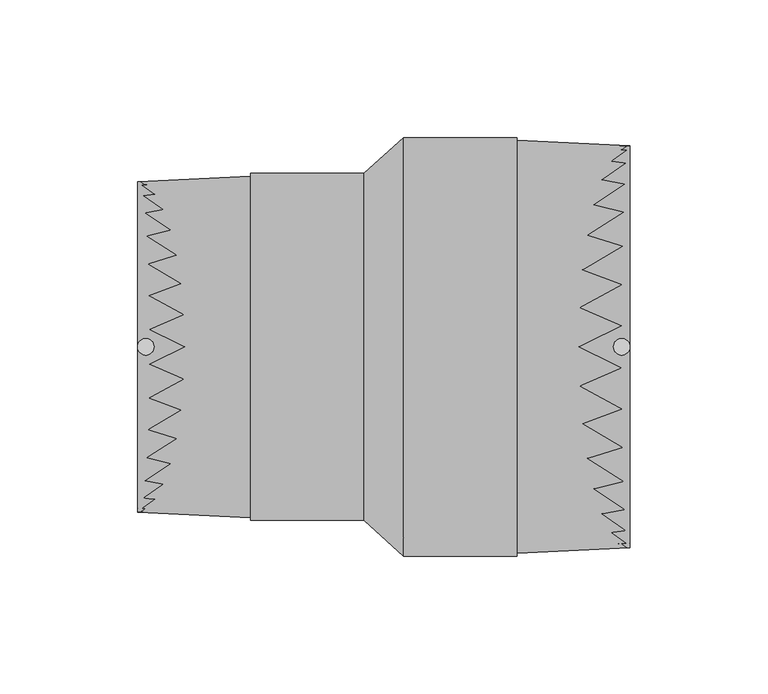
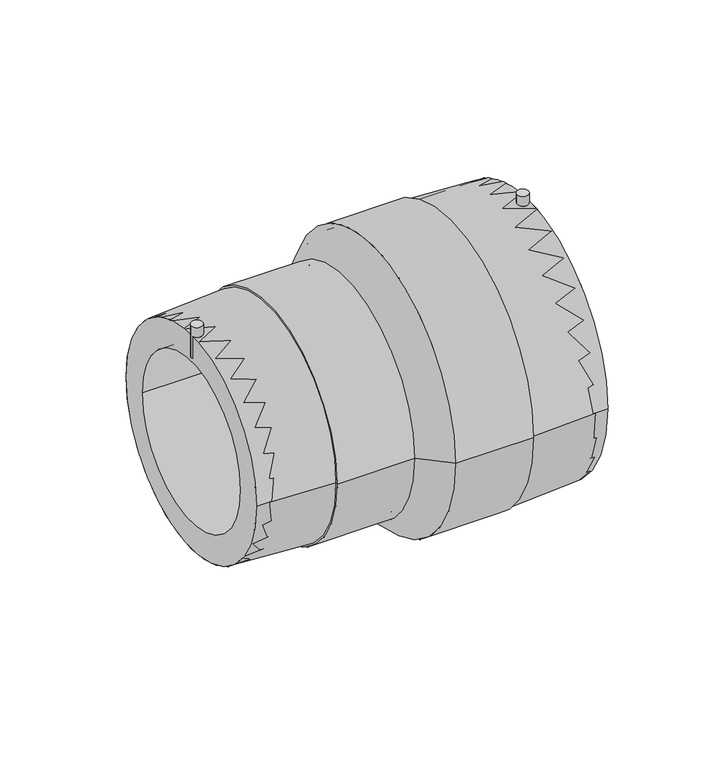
"""IFC4 building model written with IfcOpenShell, lengths in millimetres: pipe fitting geometry, EGB_VASEN_ PPR_Manguito reductor electrosoldable WXRD110 : Manguito reductor electrosoldable WXRD110."""

from ifc_helpers import new_model, si_unit, point, frame, frame_2d, origin, origin_2d, place, context, project, spatial, polyline, circle_curve, trimmed, segment, composite_curve, outline, extrude, source, transform, mapped, element, save
from ifc_brep_helpers import plane_surface, cylinder_surface, revolved_surface, advanced_brep


def pipe_fitting_c5c13ebb(model_context):
    return source(origin(), model_context, "Body", "SolidModel", [
        extrude(outline(composite_curve([segment(trimmed(circle_curve(frame_2d((86.5, 0.0)), 3.0), [point((83.5, 0.0))], [point((89.5, 0.0))], False, "CARTESIAN"), True, "CONTINUOUS"), segment(trimmed(circle_curve(frame_2d((86.5, 0.0)), 3.0), [point((89.5, 0.0))], [point((83.5, 0.0))], False, "CARTESIAN"), True, "CONTINUOUS")], self_intersect=False)), frame((0.0, 0.0, 57.0), z_axis=(0.0, 0.0, 1.0), x_axis=(1.0, 0.0, 0.0)), (0.0, 0.0, 1.0), 21.0),
        extrude(outline(composite_curve([segment(trimmed(circle_curve(frame_2d((-86.5, 0.0)), 3.0), [point((-89.5, 0.0))], [point((-83.5, 0.0))], False, "CARTESIAN"), True, "CONTINUOUS"), segment(trimmed(circle_curve(frame_2d((-86.5, 0.0)), 3.0), [point((-83.5, 0.0))], [point((-89.5, 0.0))], False, "CARTESIAN"), True, "CONTINUOUS")], self_intersect=False)), frame((0.0, 0.0, 47.0), z_axis=(0.0, 0.0, 1.0), x_axis=(1.0, 0.0, 0.0)), (0.0, 0.0, 1.0), 18.0),
        extrude(outline(composite_curve([segment(trimmed(circle_curve(origin_2d(), 73.0), [point((-73.0, 0.0))], [point((73.0, 0.0))], False, "CARTESIAN"), True, "CONTINUOUS"), segment(trimmed(circle_curve(origin_2d(), 73.0), [point((73.0, 0.0))], [point((-73.0, 0.0))], False, "CARTESIAN"), True, "CONTINUOUS")], self_intersect=False), holes=[composite_curve([segment(trimmed(circle_curve(origin_2d(), 55.0), [point((-55.0, 0.0))], [point((55.0, 0.0))], True, "CARTESIAN"), True, "CONTINUOUS"), segment(trimmed(circle_curve(origin_2d(), 55.0), [point((55.0, 0.0))], [point((-55.0, 0.0))], True, "CARTESIAN"), True, "CONTINUOUS")], self_intersect=False)]), frame((7.16, 0.0, 0.0), z_axis=(1.0, 0.0, 0.0), x_axis=(0.0, 1.0, 0.0)), (0.0, 0.0, 1.0), 82.34),
        extrude(outline(composite_curve([segment(trimmed(circle_curve(origin_2d(), 60.0), [point((-60.0, 0.0))], [point((60.0, 0.0))], False, "CARTESIAN"), True, "CONTINUOUS"), segment(trimmed(circle_curve(origin_2d(), 60.0), [point((60.0, 0.0))], [point((-60.0, 0.0))], False, "CARTESIAN"), True, "CONTINUOUS")], self_intersect=False), holes=[composite_curve([segment(trimmed(circle_curve(origin_2d(), 45.0), [point((-45.0, 0.0))], [point((45.0, 0.0))], True, "CARTESIAN"), True, "CONTINUOUS"), segment(trimmed(circle_curve(origin_2d(), 45.0), [point((45.0, 0.0))], [point((-45.0, 0.0))], True, "CARTESIAN"), True, "CONTINUOUS")], self_intersect=False)]), frame((-89.5, 0.0, 0.0), z_axis=(1.0, 0.0, 0.0), x_axis=(0.0, 1.0, 0.0)), (0.0, 0.0, 1.0), 82.34),
        advanced_brep(
        [(7.16, -73.0, 0.0), (7.16, 73.0, 0.0), (-7.16, -60.0, 0.0), (-7.16, 60.0, 0.0)],
        [
            (0, 1, circle_curve(frame((7.16, 0.0, 0.0), z_axis=(1.0, 0.0, 0.0), x_axis=(0.0, -1.0, 0.0)), 73.0)),
            (1, 0, circle_curve(frame((7.16, 0.0, 0.0), z_axis=(1.0, 0.0, 0.0), x_axis=(0.0, 1.0, 0.0)), 73.0)),
            (2, 3, circle_curve(frame((-7.16, 0.0, 0.0), z_axis=(-1.0, 0.0, 0.0), x_axis=(0.0, 1.0, 0.0)), 60.0)),
            (3, 2, circle_curve(frame((-7.16, 0.0, 0.0), z_axis=(-1.0, 0.0, 0.0), x_axis=(0.0, -1.0, 0.0)), 60.0)),
            (3, 1),
            (0, 2),
        ],
        [
            plane_surface(frame((7.16, 0.0, 0.0), z_axis=(1.0, 0.0, 0.0), x_axis=(0.0, 0.0, -1.0))),
            plane_surface(frame((-7.16, 0.0, 0.0), z_axis=(-1.0, 0.0, 0.0), x_axis=(0.0, 0.0, -1.0))),
            revolved_surface(polyline([(-7.159999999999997, 60.00000000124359, 0.0), (7.159999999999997, 73.0, 0.0)]), (-73.2523077, 0.0, 0.0), (1.0, 0.0, 0.0)),
            revolved_surface(polyline([(-7.159999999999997, -60.00000000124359, 0.0), (7.159999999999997, -73.0, 0.0)]), (-73.2523077, 0.0, 0.0), (1.0, 0.0, 0.0)),
        ],
        [
            (0, [[1, 2]]),
            (1, [[3, 4]]),
            (2, [[-4, 5, -1, 6]]),
            (3, [[-3, -6, -2, -5]]),
        ],
    ),
        advanced_brep(
        [(7.16, -73.0, 0.0), (7.16, 73.0, 0.0), (-7.16, 60.0, 0.0), (-7.16, -60.0, 0.0), (89.5, -73.0, 0.0), (89.5, 73.0, 0.0), (48.33, -75.0, 0.0), (48.33, 75.0, 0.0), (48.33, -76.0, 0.0), (48.33, 76.0, 0.0), (7.16, -76.0, 0.0), (7.16, 76.0, 0.0), (-7.16, -63.0, 0.0), (-7.16, 63.0, 0.0), (-48.33, -63.0, 0.0), (-48.33, 63.0, 0.0), (-48.33, -62.0, 0.0), (-48.33, 62.0, 0.0), (-89.5, -60.0, 0.0), (-89.5, 60.0, 0.0)],
        [
            (0, 1, circle_curve(frame((7.16, 0.0, 0.0), z_axis=(1.0, 0.0, 0.0), x_axis=(0.0, 1.0, 0.0)), 73.0)),
            (1, 2),
            (2, 3, circle_curve(frame((-7.16, 0.0, 0.0), z_axis=(-1.0, 0.0, 0.0), x_axis=(0.0, 1.0, 0.0)), 60.0)),
            (3, 0),
            (1, 0, circle_curve(frame((7.16, 0.0, 0.0), z_axis=(1.0, 0.0, 0.0), x_axis=(0.0, 1.0, 0.0)), 73.0)),
            (3, 2, circle_curve(frame((-7.16, 0.0, 0.0), z_axis=(-1.0, 0.0, 0.0), x_axis=(0.0, 1.0, 0.0)), 60.0)),
            (4, 5, circle_curve(frame((89.5, 0.0, 0.0), z_axis=(1.0, 0.0, 0.0), x_axis=(0.0, 1.0, 0.0)), 73.0)),
            (5, 1),
            (0, 4),
            (5, 4, circle_curve(frame((89.5, 0.0, 0.0), z_axis=(1.0, 0.0, 0.0), x_axis=(0.0, 1.0, 0.0)), 73.0)),
            (6, 7, circle_curve(frame((48.33, 0.0, 0.0), z_axis=(1.0, 0.0, 0.0), x_axis=(0.0, 1.0, 0.0)), 75.0)),
            (7, 5),
            (4, 6),
            (7, 6, circle_curve(frame((48.33, 0.0, 0.0), z_axis=(1.0, 0.0, 0.0), x_axis=(0.0, 1.0, 0.0)), 75.0)),
            (8, 9, circle_curve(frame((48.33, 0.0, 0.0), z_axis=(1.0, 0.0, 0.0), x_axis=(0.0, 1.0, 0.0)), 76.0)),
            (9, 7),
            (6, 8),
            (9, 8, circle_curve(frame((48.33, 0.0, 0.0), z_axis=(1.0, 0.0, 0.0), x_axis=(0.0, 1.0, 0.0)), 76.0)),
            (10, 11, circle_curve(frame((7.16, 0.0, 0.0), z_axis=(1.0, 0.0, 0.0), x_axis=(0.0, 1.0, 0.0)), 76.0)),
            (11, 9),
            (8, 10),
            (11, 10, circle_curve(frame((7.16, 0.0, 0.0), z_axis=(1.0, 0.0, 0.0), x_axis=(0.0, 1.0, 0.0)), 76.0)),
            (12, 13, circle_curve(frame((-7.16, 0.0, 0.0), z_axis=(1.0, 0.0, 0.0), x_axis=(0.0, 1.0, 0.0)), 63.0)),
            (13, 11),
            (10, 12),
            (13, 12, circle_curve(frame((-7.16, 0.0, 0.0), z_axis=(1.0, 0.0, 0.0), x_axis=(0.0, 1.0, 0.0)), 63.0)),
            (14, 15, circle_curve(frame((-48.33, 0.0, 0.0), z_axis=(1.0, 0.0, 0.0), x_axis=(0.0, 1.0, 0.0)), 63.0)),
            (15, 13),
            (12, 14),
            (15, 14, circle_curve(frame((-48.33, 0.0, 0.0), z_axis=(1.0, 0.0, 0.0), x_axis=(0.0, 1.0, 0.0)), 63.0)),
            (16, 17, circle_curve(frame((-48.33, 0.0, 0.0), z_axis=(1.0, 0.0, 0.0), x_axis=(0.0, 1.0, 0.0)), 62.0)),
            (17, 15),
            (14, 16),
            (17, 16, circle_curve(frame((-48.33, 0.0, 0.0), z_axis=(1.0, 0.0, 0.0), x_axis=(0.0, 1.0, 0.0)), 62.0)),
            (18, 19, circle_curve(frame((-89.5, 0.0, 0.0), z_axis=(1.0, 0.0, 0.0), x_axis=(0.0, 1.0, 0.0)), 60.0)),
            (19, 17),
            (16, 18),
            (19, 18, circle_curve(frame((-89.5, 0.0, 0.0), z_axis=(1.0, 0.0, 0.0), x_axis=(0.0, 1.0, 0.0)), 60.0)),
            (2, 19),
            (18, 3),
        ],
        [
            revolved_surface(polyline([(-7.16, 60.0, 0.0), (7.16, 73.0, 0.0)]), (-124.5, 0.0, 0.0), (-1.0, 0.0, 0.0)),
            revolved_surface(polyline([(7.159999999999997, 73.0, 0.0), (89.5, 73.0, 0.0)]), (-124.5, 0.0, 0.0), (-1.0, 0.0, 0.0)),
            revolved_surface(polyline([(89.5, 73.0, 0.0), (48.33, 75.0, 0.0)]), (-124.5, 0.0, 0.0), (-1.0, 0.0, 0.0)),
            plane_surface(frame((48.33, 0.0, 0.0), z_axis=(1.0, 0.0, 0.0), x_axis=(0.0, 1.0, 0.0))),
            cylinder_surface(frame((-124.5, 0.0, 0.0), z_axis=(-1.0, 0.0, 0.0), x_axis=(0.0, 1.0, 0.0)), 76.0),
            revolved_surface(polyline([(7.16, 76.0, 0.0), (-7.16, 63.0, 0.0)]), (-124.5, 0.0, 0.0), (-1.0, 0.0, 0.0)),
            cylinder_surface(frame((-124.5, 0.0, 0.0), z_axis=(-1.0, 0.0, 0.0), x_axis=(0.0, 1.0, 0.0)), 63.0),
            plane_surface(frame((-48.33, 0.0, 0.0), z_axis=(-1.0, 0.0, 0.0), x_axis=(0.0, 1.0, 0.0))),
            revolved_surface(polyline([(-48.33, 62.0, 0.0), (-89.5, 60.0, 0.0)]), (-124.5, 0.0, 0.0), (-1.0, 0.0, 0.0)),
            revolved_surface(polyline([(-89.5, 60.0, 0.0), (-7.159999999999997, 60.0, 0.0)]), (-124.5, 0.0, 0.0), (-1.0, 0.0, 0.0)),
        ],
        [
            (0, [[1, 2, 3, 4]]),
            (0, [[5, -4, 6, -2]]),
            (1, [[7, 8, -1, 9]]),
            (1, [[10, -9, -5, -8]]),
            (2, [[11, 12, -7, 13]]),
            (2, [[14, -13, -10, -12]]),
            (3, [[15, 16, -11, 17]]),
            (3, [[18, -17, -14, -16]]),
            (4, [[19, 20, -15, 21]]),
            (4, [[22, -21, -18, -20]]),
            (5, [[23, 24, -19, 25]]),
            (5, [[26, -25, -22, -24]]),
            (6, [[27, 28, -23, 29]]),
            (6, [[30, -29, -26, -28]]),
            (7, [[31, 32, -27, 33]]),
            (7, [[34, -33, -30, -32]]),
            (8, [[35, 36, -31, 37]]),
            (8, [[38, -37, -34, -36]]),
            (9, [[-3, 39, -35, 40]]),
            (9, [[-6, -40, -38, -39]]),
        ],
    ),
    ])


if __name__ == "__main__":
    model = new_model("IFC4")
    model_context = context("Model", 3, world=origin())
    ifc_project = project(units=[si_unit("LENGTHUNIT", "METRE", prefix="MILLI")], contexts=[model_context])
    site = spatial("IfcSite", under=ifc_project)
    building = spatial("IfcBuilding", under=site)
    placement = place(None, origin())
    pipe_fitting_shape = pipe_fitting_c5c13ebb(model_context)
    element("IfcPipeFitting", 1, ObjectType="EGB_VASEN_ PPR_Manguito reductor electrosoldable WXRD110 : Manguito reductor electrosoldable WXRD110", at=placement, inside=building, context=model_context, shape_type="MappedRepresentation", body=[
        mapped(pipe_fitting_shape, transform((0.0, 0.0, 0.0), x_axis=(1.0, 0.0, 0.0), y_axis=(0.0, 1.0, 0.0), z_axis=(0.0, 0.0, 1.0))),
    ])
    save(model, "model.ifc")
